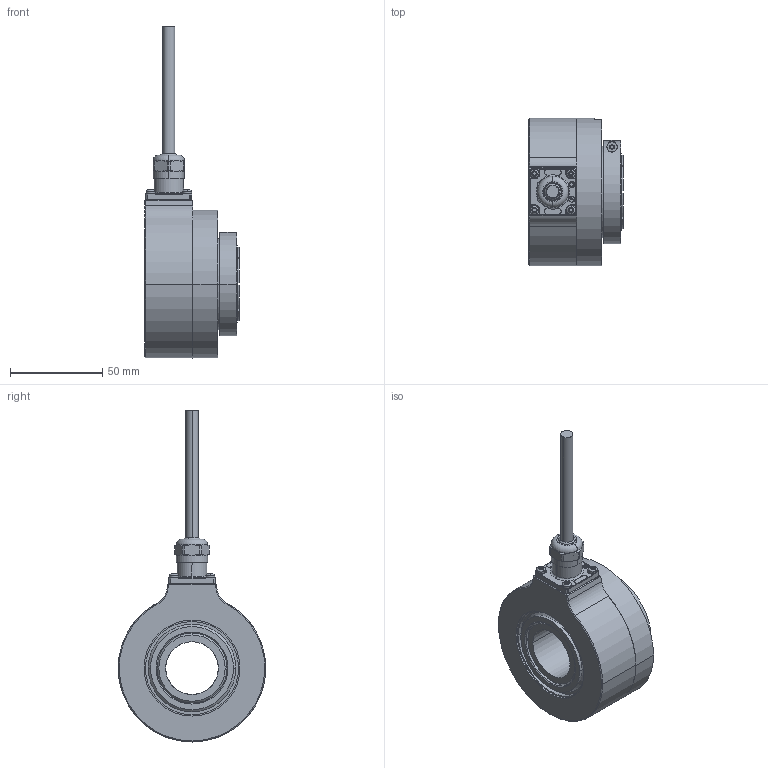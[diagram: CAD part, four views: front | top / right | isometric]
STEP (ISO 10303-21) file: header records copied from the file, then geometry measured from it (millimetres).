
FILE_DESCRIPTION (( 'STEP AP203' ), '1' );
FILE_NAME ('K80I.OXX.XXXXX.XH2088A.6XR11.XXXX.step', '2025-12-09T09:49:24', ( '' ), ( '' ), 'SwSTEP 2.0', 'SolidWorks 2021', '' );
FILE_SCHEMA (( 'CONFIG_CONTROL_DESIGN' ));
Length unit declared in the file: millimetre
Products named in the file (1): K80I.OXX.XXXXX.XH2088A.6XR11.XXXX
Bounding box: 51.2 x 80.15 x 180.07 mm (x, y, z)
Volume: 202676.2 mm3; surface area: 74699.2 mm2
Topology: 10 solids, 10 shells, 693 faces, 1785 edges, 1129 vertices
Faces by surface type: cylinder 287, plane 239, cone 68, torus 43, bspline 40, sphere 16
Entity records: 23405 total; most frequent: CARTESIAN_POINT 6432, DIRECTION 3616, ORIENTED_EDGE 3554, EDGE_CURVE 1777, AXIS2_PLACEMENT_3D 1397, VERTEX_POINT 1129, VECTOR 822, LINE 822
